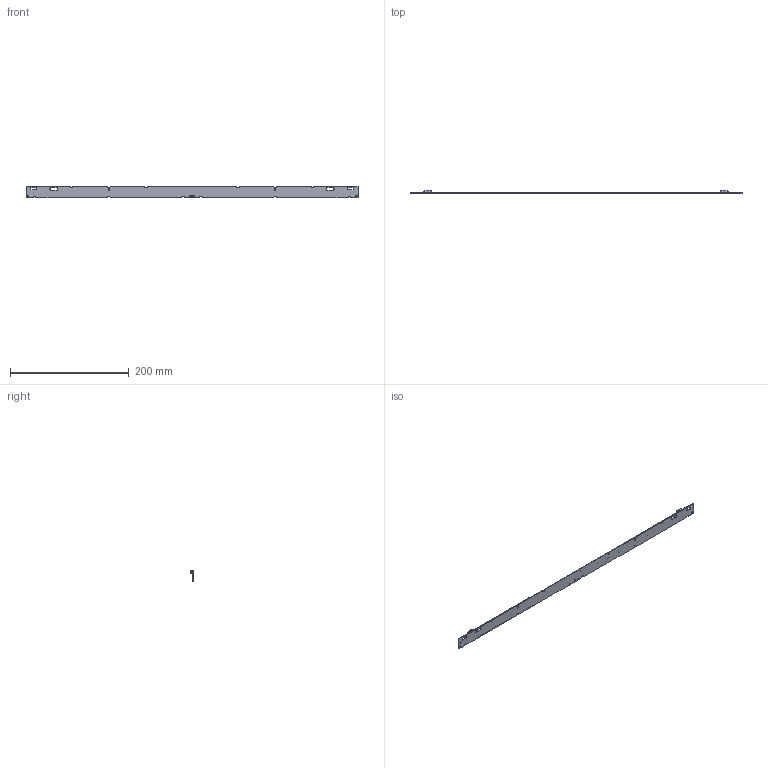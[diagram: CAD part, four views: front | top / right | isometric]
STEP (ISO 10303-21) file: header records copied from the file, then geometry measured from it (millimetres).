
FILE_DESCRIPTION((''),'2;1');
FILE_NAME('ASM_KONE_DIODE_LOGO_ASM','2020-10-27T15:42:13',('msavic'),(''),'CREO PARAMETRIC BY PTC INC, 2016510','CREO PARAMETRIC BY PTC INC, 2016510','');
FILE_SCHEMA(('AUTOMOTIVE_DESIGN { 1 0 10303 214 1 1 1 1 }'));
Products named in the file (12): BAZA_WU-M-671_SA_TXT; DIODA_STW8A2PD_ASM; VSO-LOGO-5MM_3; VSO-LOGO-5MM001_2_1; BUILT-IN_LED_MODULE-5MM004_2; BUILT-IN_LED_MODULE-5MM003_2; BUILT-IN_LED_MODULE-5MM002_2; BUILT-IN_LED_MODULE-5MM001_2; CE-ZEICHEN-6MM_2; CE-ZEICHEN-6MM001_2; 2060-452_1_2_3_4; ASM_KONE_DIODE_LOGO_ASM
Assembly tree (36 placements, depth 2):
  ASM_KONE_DIODE_LOGO_ASM
    BAZA_WU-M-671_SA_TXT
    DIODA_STW8A2PD_ASM  x24
    VSO-LOGO-5MM_3
    VSO-LOGO-5MM001_2_1
    BUILT-IN_LED_MODULE-5MM004_2
    BUILT-IN_LED_MODULE-5MM003_2
    BUILT-IN_LED_MODULE-5MM002_2
    BUILT-IN_LED_MODULE-5MM001_2  x2
    CE-ZEICHEN-6MM_2
    CE-ZEICHEN-6MM001_2
    2060-452_1_2_3_4  x2
Bounding box: 559 x 5.95 x 20 mm (x, y, z)
Volume: 17619 mm3; surface area: 25304.8 mm2
Topology: 12 solids, 36 shells, 5040 faces, 14316 edges, 9544 vertices
Faces by surface type: plane 4505, cylinder 523, extrusion 10, sphere 2
Entity records: 117350 total; most frequent: CARTESIAN_POINT 17451, ORIENTED_EDGE 16966, DIRECTION 14902, EDGE_CURVE 8483, VECTOR 8187, LINE 8177, VERTEX_POINT 5656, AXIS2_PLACEMENT_3D 3340
